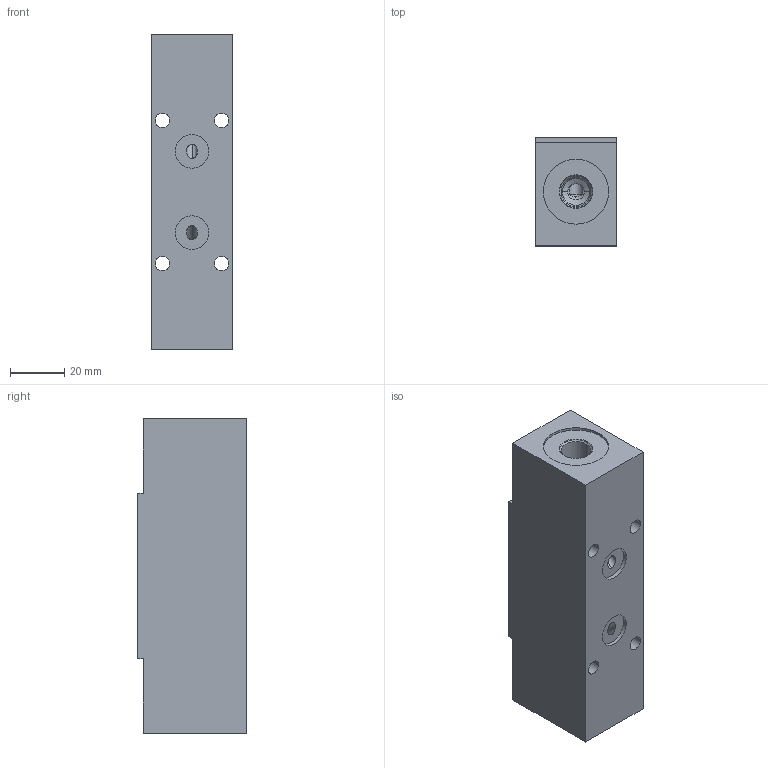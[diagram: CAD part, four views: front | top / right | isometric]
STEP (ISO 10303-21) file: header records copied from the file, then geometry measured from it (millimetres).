
FILE_DESCRIPTION((''),'2;1');
FILE_NAME('27378301','2020-09-09T',('l.soukupova'),(''),'PRO/ENGINEER BY PARAMETRIC TECHNOLOGY CORPORATION, 2015440','PRO/ENGINEER BY PARAMETRIC TECHNOLOGY CORPORATION, 2015440','');
FILE_SCHEMA(('AUTOMOTIVE_DESIGN { 1 0 10303 214 1 1 1 1 }'));
Length unit declared in the file: millimetre
Products named in the file (1): 27378301
Bounding box: 30 x 40 x 116 mm (x, y, z)
Volume: 123533.2 mm3; surface area: 25508.3 mm2
Topology: 1 solids, 3 shells, 72 faces, 213 edges, 168 vertices
Faces by surface type: cylinder 40, plane 16, cone 16
Entity records: 4444 total; most frequent: CARTESIAN_POINT 912, DIRECTION 435, ORIENTED_EDGE 344, PRESENTATION_STYLE_ASSIGNMENT 293, STYLED_ITEM 227, CURVE_STYLE 224, EDGE_CURVE 176, AXIS2_PLACEMENT_3D 165
